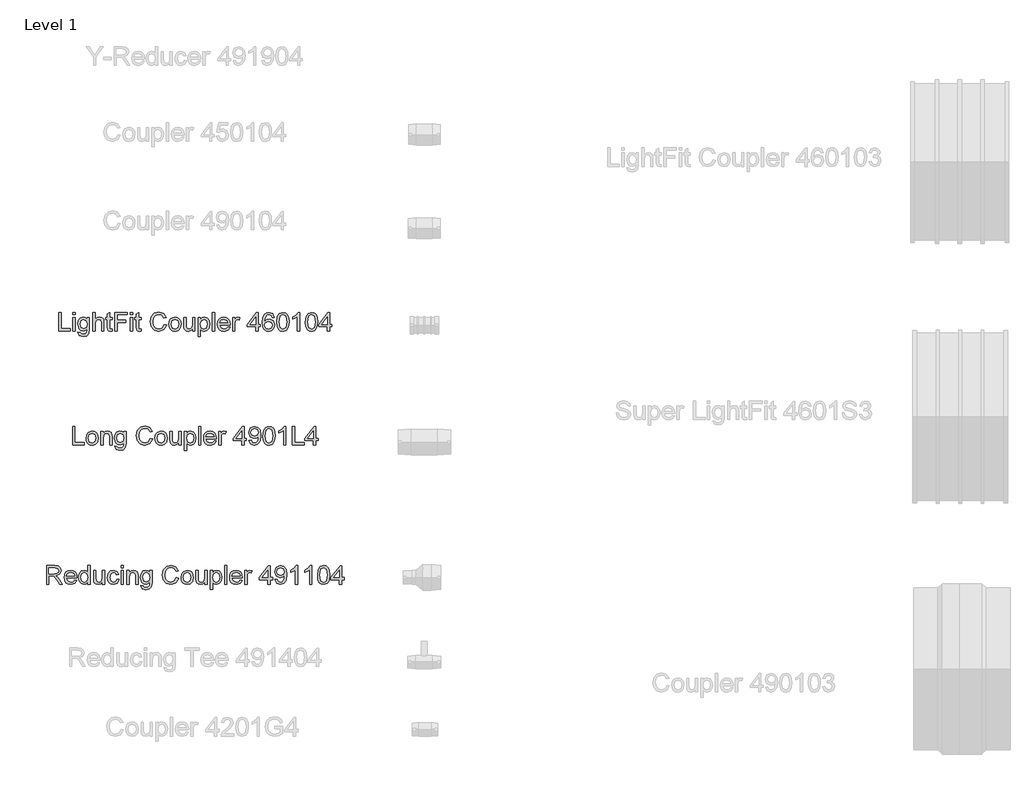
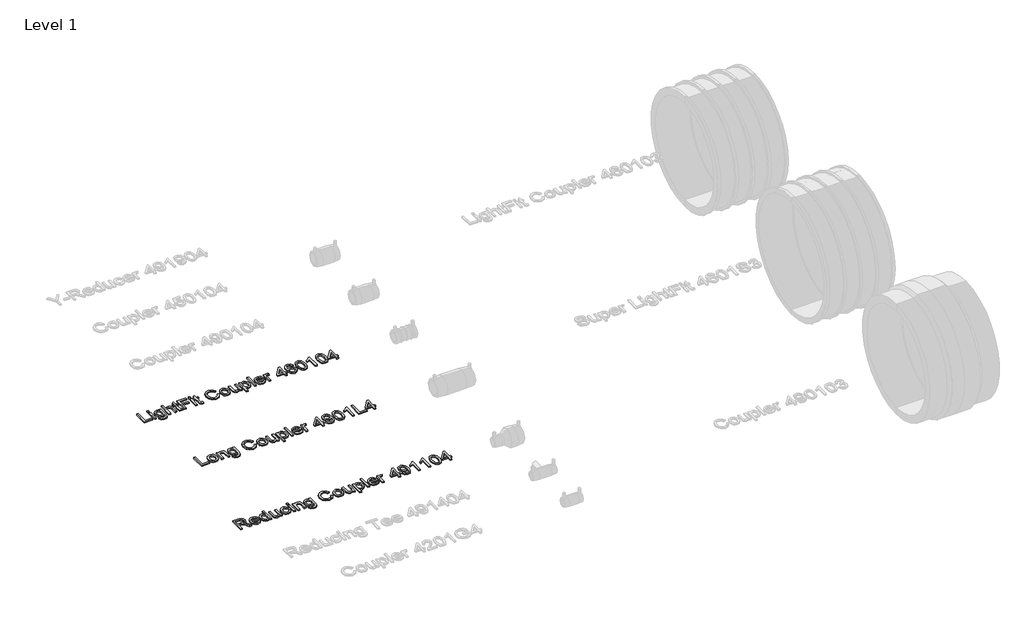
# One storey, part 2 of 41: 3 proxies.
"""IFC4 building model written with IfcOpenShell, lengths in millimetres."""

from ifc_helpers import new_model, si_unit, origin, origin_with_axes, place, context, project, spatial, polyline, outline, extrude, element, save

model = new_model("IFC4")

# Units and contexts
model_context = context("Model", 3, world=origin())
ifc_project = project(units=[si_unit("LENGTHUNIT", "METRE", prefix="MILLI")], contexts=[model_context])

# Site, building, storey
site = spatial("IfcSite", under=ifc_project)
building = spatial("IfcBuilding", under=site)
storey = spatial("IfcBuildingStorey", under=building, Name="Level 1", Elevation=0.0)

# Proxies
placement = place(None, origin())
element("IfcBuildingElementProxy", 1, Name="100 mm Arial", ObjectType="100 mm Arial", at=placement, inside=storey, context=model_context, shape_type="SweptSolid", body=[
    extrude(outline(polyline([(811.427917, 3874.3643675), (811.427917, 3933.4412905), (818.8125324, 3933.4412905), (818.8125324, 3881.7489828), (848.3509939, 3881.7489828), (848.3509939, 3874.3643675), (811.427917, 3874.3643675)])), origin_with_axes(), (0.0, 0.0, 1.0), 5.0),
    extrude(outline(polyline([(855.7356093, 3926.0566752), (855.7356093, 3933.4412905), (863.1202247, 3933.4412905), (863.1202247, 3926.0566752), (855.7356093, 3926.0566752)])), origin_with_axes(), (0.0, 0.0, 1.0), 5.0),
    extrude(outline(polyline([(855.7356093, 3874.3643675), (855.7356093, 3917.7489828), (863.1202247, 3917.7489828), (863.1202247, 3874.3643675), (855.7356093, 3874.3643675)])), origin_with_axes(), (0.0, 0.0, 1.0), 5.0),
    extrude(outline(polyline([(872.3509939, 3870.6720598), (879.7356093, 3869.7489828), (882.1298401, 3865.8547521), (889.2981093, 3864.2105213), (896.8558016, 3866.0710982), (900.4615709, 3871.2922521), (900.9663786, 3879.902829), (889.427917, 3874.3643675), (881.8143353, 3875.9761463), (876.1370516, 3880.8114828), (871.427917, 3896.2730213), (873.5408978, 3907.7177328), (879.6562824, 3915.8162905), (889.0673401, 3918.6720598), (895.6550805, 3917.0566752), (900.9663786, 3912.2105213), (900.9663786, 3917.7489828), (908.3509939, 3917.7489828), (908.3509939, 3880.2922521), (906.3317632, 3865.9485021), (899.9351286, 3859.277829), (889.1538786, 3856.8259059), (876.8726286, 3860.2802328), (872.3509939, 3870.6720598)]), holes=[polyline([(878.8125324, 3896.777829), (881.9639747, 3885.3475405), (889.8750324, 3881.7489828), (897.771667, 3885.3259059), (900.9663786, 3896.5614828), (897.677917, 3907.5735021), (889.7596478, 3911.2874444), (882.0072439, 3907.6311944), (878.8125324, 3896.777829)])]), origin_with_axes(), (0.0, 0.0, 1.0), 5.0),
    extrude(outline(polyline([(919.427917, 3874.3643675), (919.427917, 3933.4412905), (926.8125324, 3933.4412905), (926.8125324, 3911.7201367), (932.5709459, 3916.934079), (939.6634939, 3918.6720598), (947.9567632, 3916.7754252), (952.990417, 3911.5326367), (954.5048401, 3901.8259059), (954.5048401, 3874.3643675), (947.1202247, 3874.3643675), (947.1202247, 3901.0614828), (944.7692632, 3908.8499444), (938.1058016, 3911.2874444), (932.0553209, 3909.6432136), (928.0168593, 3905.1864828), (926.8125324, 3897.4124444), (926.8125324, 3874.3643675), (919.427917, 3874.3643675)])), origin_with_axes(), (0.0, 0.0, 1.0), 5.0),
    extrude(outline(polyline([(980.3509939, 3880.5230213), (981.2740709, 3874.1480213), (975.7500324, 3873.4412905), (969.5625324, 3874.6672521), (966.4759939, 3877.8835982), (965.5817632, 3886.2634059), (965.5817632, 3910.3643675), (960.0433016, 3910.3643675), (960.0433016, 3917.7489828), (965.5817632, 3917.7489828), (965.5817632, 3928.2922521), (972.9663786, 3932.6335982), (972.9663786, 3917.7489828), (980.3509939, 3917.7489828), (980.3509939, 3910.3643675), (972.9663786, 3910.3643675), (972.9663786, 3886.4797521), (973.3558016, 3882.6720598), (974.6178209, 3881.3235021), (977.1346478, 3880.8259059), (980.3509939, 3880.5230213)])), origin_with_axes(), (0.0, 0.0, 1.0), 5.0),
    extrude(outline(polyline([(988.6586863, 3874.3643675), (988.6586863, 3933.4412905), (1028.3509939, 3933.4412905), (1028.3509939, 3926.0566752), (996.0433016, 3926.0566752), (996.0433016, 3908.5182136), (1023.7356093, 3908.5182136), (1023.7356093, 3901.1335982), (996.0433016, 3901.1335982), (996.0433016, 3874.3643675), (988.6586863, 3874.3643675)])), origin_with_axes(), (0.0, 0.0, 1.0), 5.0),
    extrude(outline(polyline([(1037.5817632, 3874.3643675), (1037.5817632, 3917.7489828), (1044.9663786, 3917.7489828), (1044.9663786, 3874.3643675), (1037.5817632, 3874.3643675)])), origin_with_axes(), (0.0, 0.0, 1.0), 5.0),
    extrude(outline(polyline([(1037.5817632, 3926.0566752), (1037.5817632, 3933.4412905), (1044.9663786, 3933.4412905), (1044.9663786, 3926.0566752), (1037.5817632, 3926.0566752)])), origin_with_axes(), (0.0, 0.0, 1.0), 5.0),
    extrude(outline(polyline([(1071.7356093, 3880.5230213), (1072.6586863, 3874.1480213), (1067.1346478, 3873.4412905), (1060.9471478, 3874.6672521), (1057.8606093, 3877.8835982), (1056.9663786, 3886.2634059), (1056.9663786, 3910.3643675), (1051.427917, 3910.3643675), (1051.427917, 3917.7489828), (1056.9663786, 3917.7489828), (1056.9663786, 3928.2922521), (1064.3509939, 3932.6335982), (1064.3509939, 3917.7489828), (1071.7356093, 3917.7489828), (1071.7356093, 3910.3643675), (1064.3509939, 3910.3643675), (1064.3509939, 3886.4797521), (1064.740417, 3882.6720598), (1066.0024363, 3881.3235021), (1068.5192632, 3880.8259059), (1071.7356093, 3880.5230213)])), origin_with_axes(), (0.0, 0.0, 1.0), 5.0),
    extrude(outline(polyline([(1144.6586863, 3895.3643675), (1152.0433016, 3893.4605213), (1143.2884939, 3878.5686944), (1127.8269555, 3873.4412905), (1112.459167, 3877.3210982), (1103.4447439, 3888.5566752), (1100.3509939, 3904.3499444), (1103.8485901, 3920.402829), (1113.7933016, 3930.809079), (1127.9856093, 3934.3643675), (1142.7764747, 3929.7634059), (1151.1202247, 3916.8114828), (1143.7356093, 3915.0518675), (1137.677917, 3924.1311944), (1127.6971478, 3926.9797521), (1116.1442632, 3923.8210982), (1109.6178209, 3915.340329), (1107.7356093, 3904.3643675), (1109.9639747, 3891.6432136), (1116.9014747, 3883.5158098), (1127.0913786, 3880.8259059), (1138.3918593, 3884.4893675), (1144.6586863, 3895.3643675)])), origin_with_axes(), (0.0, 0.0, 1.0), 5.0),
    extrude(outline(polyline([(1159.427917, 3896.0566752), (1161.0252728, 3906.5170117), (1165.8173401, 3913.8691752), (1178.8269555, 3918.6720598), (1186.584768, 3917.2099203), (1192.7812824, 3912.8235021), (1196.8431814, 3905.8589588), (1198.1971478, 3896.6624444), (1195.802917, 3883.5230213), (1188.8293593, 3876.0879252), (1178.8269555, 3873.4412905), (1170.975393, 3874.8980213), (1164.7860901, 3879.2682136), (1160.7674603, 3886.3787905), (1159.427917, 3896.0566752)]), holes=[polyline([(1166.8125324, 3896.0710982), (1170.2308016, 3884.6263867), (1178.8269555, 3880.8259059), (1187.3942632, 3884.6480213), (1190.8125324, 3896.3018675), (1187.3726286, 3907.4869636), (1178.8269555, 3911.2874444), (1170.2308016, 3907.5013867), (1166.8125324, 3896.0710982)])]), origin_with_axes(), (0.0, 0.0, 1.0), 5.0),
    extrude(outline(polyline([(1234.1971478, 3874.3643675), (1234.1971478, 3881.8210982), (1228.4134939, 3875.5362425), (1220.8702247, 3873.4412905), (1213.9255132, 3874.9124444), (1209.1370516, 3878.6047521), (1206.9375324, 3884.0422521), (1206.5048401, 3890.9076367), (1206.5048401, 3917.7489828), (1213.8894555, 3917.7489828), (1213.8894555, 3894.3835982), (1214.3365709, 3886.8547521), (1217.2572439, 3882.434079), (1222.7596478, 3880.8259059), (1228.9255132, 3882.4701367), (1233.0000324, 3886.9485021), (1234.1971478, 3895.1768675), (1234.1971478, 3917.7489828), (1241.5817632, 3917.7489828), (1241.5817632, 3874.3643675), (1234.1971478, 3874.3643675)])), origin_with_axes(), (0.0, 0.0, 1.0), 5.0),
    extrude(outline(polyline([(1251.7356093, 3857.7489828), (1251.7356093, 3917.7489828), (1259.1202247, 3917.7489828), (1259.1202247, 3910.5085982), (1264.2259939, 3916.6311944), (1271.1202247, 3918.6720598), (1280.4808016, 3915.8162905), (1286.5961863, 3907.7682136), (1288.6586863, 3896.3884059), (1286.3293593, 3884.4244636), (1279.5649363, 3876.2754252), (1270.2259939, 3873.4412905), (1263.8005132, 3875.3379252), (1259.1202247, 3880.1335982), (1259.1202247, 3857.7489828), (1251.7356093, 3857.7489828)]), holes=[polyline([(1259.1202247, 3895.7105213), (1262.3149363, 3884.4605213), (1270.0673401, 3880.8259059), (1277.9783978, 3884.590329), (1281.2740709, 3896.2585982), (1278.0577247, 3907.5374444), (1270.3702247, 3911.2874444), (1262.5312824, 3907.2994636), (1259.1202247, 3895.7105213)])]), origin_with_axes(), (0.0, 0.0, 1.0), 5.0),
    extrude(outline(polyline([(1296.9663786, 3874.3643675), (1296.9663786, 3933.4412905), (1304.3509939, 3933.4412905), (1304.3509939, 3874.3643675), (1296.9663786, 3874.3643675)])), origin_with_axes(), (0.0, 0.0, 1.0), 5.0),
    extrude(outline(polyline([(1345.802917, 3887.2874444), (1353.0433016, 3886.3643675), (1346.271667, 3876.8307136), (1333.6586863, 3873.4412905), (1324.9940228, 3874.90343), (1318.3269555, 3879.2898482), (1314.0757536, 3886.3156896), (1312.6586863, 3895.6960982), (1314.0901766, 3905.3920117), (1318.3846478, 3912.6432136), (1324.9615709, 3917.1648482), (1333.240417, 3918.6720598), (1341.2614507, 3917.168454), (1347.6707055, 3912.6576367), (1351.8732295, 3905.4208578), (1353.2740709, 3895.7393675), (1353.2308016, 3893.7489828), (1320.0433016, 3893.7489828), (1324.2908978, 3884.1576367), (1333.802917, 3880.8259059), (1341.0433016, 3882.3691752), (1345.802917, 3887.2874444)]), holes=[polyline([(1320.0433016, 3901.1335982), (1345.8894555, 3901.1335982), (1342.9327247, 3907.8259059), (1333.2115709, 3911.2874444), (1324.1178209, 3908.5254252), (1320.0433016, 3901.1335982)])]), origin_with_axes(), (0.0, 0.0, 1.0), 5.0),
    extrude(outline(polyline([(1360.6586863, 3874.3643675), (1360.6586863, 3917.7489828), (1367.1202247, 3917.7489828), (1367.1202247, 3911.3307136), (1371.7067632, 3917.2441752), (1376.3221478, 3918.6720598), (1383.7356093, 3916.3932136), (1381.2692632, 3909.7730213), (1376.0769555, 3911.2874444), (1371.9014747, 3909.8307136), (1369.240417, 3905.7922521), (1368.0433016, 3897.1672521), (1368.0433016, 3874.3643675), (1360.6586863, 3874.3643675)])), origin_with_axes(), (0.0, 0.0, 1.0), 5.0),
    extrude(outline(polyline([(1433.5817632, 3874.3643675), (1433.5817632, 3888.2105213), (1406.8125324, 3888.2105213), (1406.8125324, 3895.5951367), (1435.427917, 3932.5182136), (1440.9663786, 3932.5182136), (1440.9663786, 3895.5951367), (1448.3509939, 3895.5951367), (1448.3509939, 3888.2105213), (1440.9663786, 3888.2105213), (1440.9663786, 3874.3643675), (1433.5817632, 3874.3643675)]), holes=[polyline([(1433.5817632, 3895.5951367), (1433.5817632, 3918.4124444), (1415.8990709, 3895.5951367), (1433.5817632, 3895.5951367)])]), origin_with_axes(), (0.0, 0.0, 1.0), 5.0),
    extrude(outline(polyline([(1492.6586863, 3917.7489828), (1485.2740709, 3916.8259059), (1482.4759939, 3922.9845598), (1475.0769555, 3926.0566752), (1468.4134939, 3924.2682136), (1463.3726286, 3917.5542713), (1461.2740709, 3904.3932136), (1467.7860901, 3910.2850405), (1475.8558016, 3912.2105213), (1488.4038786, 3906.9460982), (1493.5817632, 3893.3451367), (1491.1442632, 3883.1552328), (1484.4375324, 3875.9436944), (1474.7596478, 3873.4412905), (1466.381643, 3875.0999444), (1459.709167, 3880.0759059), (1455.3443834, 3888.8595598), (1453.8894555, 3901.9412905), (1455.5048401, 3916.6492232), (1460.3509939, 3926.7057136), (1466.9675805, 3931.7573963), (1475.5384939, 3933.4412905), (1487.2067632, 3929.2730213), (1492.6586863, 3917.7489828)]), holes=[polyline([(1461.2740709, 3893.4605213), (1462.9832055, 3887.0638867), (1467.5264747, 3882.4196559), (1474.1827247, 3880.8259059), (1482.8870516, 3884.1287905), (1486.1971478, 3893.0999444), (1482.9303209, 3901.6888867), (1473.8798401, 3904.8259059), (1464.9447439, 3901.6888867), (1461.2740709, 3893.4605213)])]), origin_with_axes(), (0.0, 0.0, 1.0), 5.0),
    extrude(outline(polyline([(1500.0433016, 3903.4268675), (1502.2139747, 3920.4244636), (1508.6610901, 3930.2249444), (1519.427917, 3933.4412905), (1528.052917, 3931.5374444), (1534.0096478, 3926.0494636), (1537.4711863, 3917.309079), (1538.8125324, 3903.4268675), (1536.6634939, 3886.5013867), (1530.2380132, 3876.6792713), (1519.427917, 3873.4412905), (1511.7548401, 3874.8475405), (1505.927917, 3879.0662905), (1501.5144555, 3889.0578771), (1500.0433016, 3903.4268675)]), holes=[polyline([(1507.427917, 3903.4412905), (1510.8894555, 3885.1023482), (1519.427917, 3880.8259059), (1527.9663786, 3885.1167713), (1531.427917, 3903.4412905), (1528.0817632, 3921.5710982), (1519.3413786, 3926.0566752), (1511.0048401, 3922.1047521), (1507.427917, 3903.4412905)])]), origin_with_axes(), (0.0, 0.0, 1.0), 5.0),
    extrude(outline(polyline([(1572.9663786, 3874.3643675), (1565.5817632, 3874.3643675), (1565.5817632, 3920.402829), (1558.5865709, 3915.4196559), (1550.8125324, 3911.6912905), (1550.8125324, 3918.6720598), (1561.6370516, 3925.5807136), (1568.2067632, 3933.4412905), (1572.9663786, 3933.4412905), (1572.9663786, 3874.3643675)])), origin_with_axes(), (0.0, 0.0, 1.0), 5.0),
    extrude(outline(polyline([(1590.5048401, 3903.4268675), (1592.6755132, 3920.4244636), (1599.1226286, 3930.2249444), (1609.8894555, 3933.4412905), (1618.5144555, 3931.5374444), (1624.4711863, 3926.0494636), (1627.9327247, 3917.309079), (1629.2740709, 3903.4268675), (1627.1250324, 3886.5013867), (1620.6995516, 3876.6792713), (1609.8894555, 3873.4412905), (1602.2163786, 3874.8475405), (1596.3894555, 3879.0662905), (1591.9759939, 3889.0578771), (1590.5048401, 3903.4268675)]), holes=[polyline([(1597.8894555, 3903.4412905), (1601.3509939, 3885.1023482), (1609.8894555, 3880.8259059), (1618.427917, 3885.1167713), (1621.8894555, 3903.4412905), (1618.5433016, 3921.5710982), (1609.802917, 3926.0566752), (1601.4663786, 3922.1047521), (1597.8894555, 3903.4412905)])]), origin_with_axes(), (0.0, 0.0, 1.0), 5.0),
    extrude(outline(polyline([(1659.7356093, 3874.3643675), (1659.7356093, 3888.2105213), (1632.9663786, 3888.2105213), (1632.9663786, 3895.5951367), (1661.5817632, 3932.5182136), (1667.1202247, 3932.5182136), (1667.1202247, 3895.5951367), (1674.5048401, 3895.5951367), (1674.5048401, 3888.2105213), (1667.1202247, 3888.2105213), (1667.1202247, 3874.3643675), (1659.7356093, 3874.3643675)]), holes=[polyline([(1659.7356093, 3895.5951367), (1659.7356093, 3918.4124444), (1642.052917, 3895.5951367), (1659.7356093, 3895.5951367)])]), origin_with_axes(), (0.0, 0.0, 1.0), 5.0),
])
element("IfcBuildingElementProxy", 2, Name="100 mm Arial", ObjectType="100 mm Arial", at=placement, inside=storey, context=model_context, shape_type="SweptSolid", body=[
    extrude(outline(polyline([(855.2740709, 3514.3643675), (855.2740709, 3573.4412905), (862.6586863, 3573.4412905), (862.6586863, 3521.7489828), (892.1971478, 3521.7489828), (892.1971478, 3514.3643675), (855.2740709, 3514.3643675)])), origin_with_axes(), (0.0, 0.0, 1.0), 5.0),
    extrude(outline(polyline([(897.7356093, 3536.0566752), (899.3329651, 3546.5170117), (904.1250324, 3553.8691752), (917.1346478, 3558.6720598), (924.8924603, 3557.2099203), (931.0889747, 3552.8235021), (935.1508738, 3545.8589588), (936.5048401, 3536.6624444), (934.1106093, 3523.5230213), (927.1370516, 3516.0879252), (917.1346478, 3513.4412905), (909.2830853, 3514.8980213), (903.0937824, 3519.2682136), (899.0751526, 3526.3787905), (897.7356093, 3536.0566752)]), holes=[polyline([(905.1202247, 3536.0710982), (908.5384939, 3524.6263867), (917.1346478, 3520.8259059), (925.7019555, 3524.6480213), (929.1202247, 3536.3018675), (925.6803209, 3547.4869636), (917.1346478, 3551.2874444), (908.5384939, 3547.5013867), (905.1202247, 3536.0710982)])]), origin_with_axes(), (0.0, 0.0, 1.0), 5.0),
    extrude(outline(polyline([(944.8125324, 3514.3643675), (944.8125324, 3557.7489828), (952.1971478, 3557.7489828), (952.1971478, 3551.6912905), (957.8437824, 3556.9268675), (965.552917, 3558.6720598), (972.5264747, 3557.2658098), (977.2860901, 3553.5735021), (979.5000324, 3548.1432136), (979.8894555, 3541.0037905), (979.8894555, 3514.3643675), (972.5048401, 3514.3643675), (972.5048401, 3540.0085982), (971.6538786, 3546.5422521), (968.646667, 3549.996579), (963.5769555, 3551.2874444), (955.5649363, 3548.3884059), (952.1971478, 3537.3835982), (952.1971478, 3514.3643675), (944.8125324, 3514.3643675)])), origin_with_axes(), (0.0, 0.0, 1.0), 5.0),
    extrude(outline(polyline([(988.1971478, 3510.6720598), (995.5817632, 3509.7489828), (997.9759939, 3505.8547521), (1005.1442632, 3504.2105213), (1012.7019555, 3506.0710982), (1016.3077247, 3511.2922521), (1016.8125324, 3519.902829), (1005.2740709, 3514.3643675), (997.6604891, 3515.9761463), (991.9832055, 3520.8114828), (987.2740709, 3536.2730213), (989.3870516, 3547.7177328), (995.5024363, 3555.8162905), (1004.9134939, 3558.6720598), (1011.5012343, 3557.0566752), (1016.8125324, 3552.2105213), (1016.8125324, 3557.7489828), (1024.1971478, 3557.7489828), (1024.1971478, 3520.2922521), (1022.177917, 3505.9485021), (1015.7812824, 3499.277829), (1005.0000324, 3496.8259059), (992.7187824, 3500.2802328), (988.1971478, 3510.6720598)]), holes=[polyline([(994.6586863, 3536.777829), (997.8101286, 3525.3475405), (1005.7211863, 3521.7489828), (1013.6178209, 3525.3259059), (1016.8125324, 3536.5614828), (1013.5240709, 3547.5735021), (1005.6058016, 3551.2874444), (997.8533978, 3547.6311944), (994.6586863, 3536.777829)])]), origin_with_axes(), (0.0, 0.0, 1.0), 5.0),
    extrude(outline(polyline([(1100.8125324, 3535.3643675), (1108.1971478, 3533.4605213), (1099.4423401, 3518.5686944), (1083.9808016, 3513.4412905), (1068.6130132, 3517.3210982), (1059.5985901, 3528.5566752), (1056.5048401, 3544.3499444), (1060.0024363, 3560.402829), (1069.9471478, 3570.809079), (1084.1394555, 3574.3643675), (1098.9303209, 3569.7634059), (1107.2740709, 3556.8114828), (1099.8894555, 3555.0518675), (1093.8317632, 3564.1311944), (1083.8509939, 3566.9797521), (1072.2981093, 3563.8210982), (1065.771667, 3555.340329), (1063.8894555, 3544.3643675), (1066.1178209, 3531.6432136), (1073.0553209, 3523.5158098), (1083.2452247, 3520.8259059), (1094.5457055, 3524.4893675), (1100.8125324, 3535.3643675)])), origin_with_axes(), (0.0, 0.0, 1.0), 5.0),
    extrude(outline(polyline([(1115.5817632, 3536.0566752), (1117.1791189, 3546.5170117), (1121.9711863, 3553.8691752), (1134.9808016, 3558.6720598), (1142.7386141, 3557.2099203), (1148.9351286, 3552.8235021), (1152.9970276, 3545.8589588), (1154.3509939, 3536.6624444), (1151.9567632, 3523.5230213), (1144.9832055, 3516.0879252), (1134.9808016, 3513.4412905), (1127.1292391, 3514.8980213), (1120.9399363, 3519.2682136), (1116.9213064, 3526.3787905), (1115.5817632, 3536.0566752)]), holes=[polyline([(1122.9663786, 3536.0710982), (1126.3846478, 3524.6263867), (1134.9808016, 3520.8259059), (1143.5481093, 3524.6480213), (1146.9663786, 3536.3018675), (1143.5264747, 3547.4869636), (1134.9808016, 3551.2874444), (1126.3846478, 3547.5013867), (1122.9663786, 3536.0710982)])]), origin_with_axes(), (0.0, 0.0, 1.0), 5.0),
    extrude(outline(polyline([(1190.3509939, 3514.3643675), (1190.3509939, 3521.8210982), (1184.5673401, 3515.5362425), (1177.0240709, 3513.4412905), (1170.0793593, 3514.9124444), (1165.2908978, 3518.6047521), (1163.0913786, 3524.0422521), (1162.6586863, 3530.9076367), (1162.6586863, 3557.7489828), (1170.0433016, 3557.7489828), (1170.0433016, 3534.3835982), (1170.490417, 3526.8547521), (1173.4110901, 3522.434079), (1178.9134939, 3520.8259059), (1185.0793593, 3522.4701367), (1189.1538786, 3526.9485021), (1190.3509939, 3535.1768675), (1190.3509939, 3557.7489828), (1197.7356093, 3557.7489828), (1197.7356093, 3514.3643675), (1190.3509939, 3514.3643675)])), origin_with_axes(), (0.0, 0.0, 1.0), 5.0),
    extrude(outline(polyline([(1207.8894555, 3497.7489828), (1207.8894555, 3557.7489828), (1215.2740709, 3557.7489828), (1215.2740709, 3550.5085982), (1220.3798401, 3556.6311944), (1227.2740709, 3558.6720598), (1236.6346478, 3555.8162905), (1242.7500324, 3547.7682136), (1244.8125324, 3536.3884059), (1242.4832055, 3524.4244636), (1235.7187824, 3516.2754252), (1226.3798401, 3513.4412905), (1219.9543593, 3515.3379252), (1215.2740709, 3520.1335982), (1215.2740709, 3497.7489828), (1207.8894555, 3497.7489828)]), holes=[polyline([(1215.2740709, 3535.7105213), (1218.4687824, 3524.4605213), (1226.2211863, 3520.8259059), (1234.1322439, 3524.590329), (1237.427917, 3536.2585982), (1234.2115709, 3547.5374444), (1226.5240709, 3551.2874444), (1218.6851286, 3547.2994636), (1215.2740709, 3535.7105213)])]), origin_with_axes(), (0.0, 0.0, 1.0), 5.0),
    extrude(outline(polyline([(1253.1202247, 3514.3643675), (1253.1202247, 3573.4412905), (1260.5048401, 3573.4412905), (1260.5048401, 3514.3643675), (1253.1202247, 3514.3643675)])), origin_with_axes(), (0.0, 0.0, 1.0), 5.0),
    extrude(outline(polyline([(1301.9567632, 3527.2874444), (1309.1971478, 3526.3643675), (1302.4255132, 3516.8307136), (1289.8125324, 3513.4412905), (1281.1478689, 3514.90343), (1274.4808016, 3519.2898482), (1270.2295997, 3526.3156896), (1268.8125324, 3535.6960982), (1270.2440228, 3545.3920117), (1274.5384939, 3552.6432136), (1281.115417, 3557.1648482), (1289.3942632, 3558.6720598), (1297.4152968, 3557.168454), (1303.8245516, 3552.6576367), (1308.0270757, 3545.4208578), (1309.427917, 3535.7393675), (1309.3846478, 3533.7489828), (1276.1971478, 3533.7489828), (1280.4447439, 3524.1576367), (1289.9567632, 3520.8259059), (1297.1971478, 3522.3691752), (1301.9567632, 3527.2874444)]), holes=[polyline([(1276.1971478, 3541.1335982), (1302.0433016, 3541.1335982), (1299.0865709, 3547.8259059), (1289.365417, 3551.2874444), (1280.271667, 3548.5254252), (1276.1971478, 3541.1335982)])]), origin_with_axes(), (0.0, 0.0, 1.0), 5.0),
    extrude(outline(polyline([(1316.8125324, 3514.3643675), (1316.8125324, 3557.7489828), (1323.2740709, 3557.7489828), (1323.2740709, 3551.3307136), (1327.8606093, 3557.2441752), (1332.4759939, 3558.6720598), (1339.8894555, 3556.3932136), (1337.4231093, 3549.7730213), (1332.2308016, 3551.2874444), (1328.0553209, 3549.8307136), (1325.3942632, 3545.7922521), (1324.1971478, 3537.1672521), (1324.1971478, 3514.3643675), (1316.8125324, 3514.3643675)])), origin_with_axes(), (0.0, 0.0, 1.0), 5.0),
    extrude(outline(polyline([(1389.7356093, 3514.3643675), (1389.7356093, 3528.2105213), (1362.9663786, 3528.2105213), (1362.9663786, 3535.5951367), (1391.5817632, 3572.5182136), (1397.1202247, 3572.5182136), (1397.1202247, 3535.5951367), (1404.5048401, 3535.5951367), (1404.5048401, 3528.2105213), (1397.1202247, 3528.2105213), (1397.1202247, 3514.3643675), (1389.7356093, 3514.3643675)]), holes=[polyline([(1389.7356093, 3535.5951367), (1389.7356093, 3558.4124444), (1372.052917, 3535.5951367), (1389.7356093, 3535.5951367)])]), origin_with_axes(), (0.0, 0.0, 1.0), 5.0),
    extrude(outline(polyline([(1411.8894555, 3529.1335982), (1419.2740709, 3530.0566752), (1422.5913786, 3523.0110021), (1428.8798401, 3520.8259059), (1434.8582055, 3522.2321559), (1438.9110901, 3525.9893675), (1441.3269555, 3532.4076367), (1442.3942632, 3540.9749444), (1436.4447439, 3536.8210982), (1428.3461863, 3534.6720598), (1416.0072439, 3539.9220598), (1410.9663786, 3553.7537905), (1416.2524363, 3568.0326367), (1429.5000324, 3573.4412905), (1440.021667, 3570.3547521), (1447.2620516, 3561.5566752), (1449.7356093, 3545.027829), (1447.2692632, 3527.0927328), (1439.9351286, 3516.9316752), (1428.5336863, 3513.4412905), (1417.1827247, 3517.559079), (1411.8894555, 3529.1335982)]), holes=[polyline([(1442.3509939, 3553.9268675), (1439.1634939, 3562.7826367), (1430.6971478, 3566.0566752), (1421.8125324, 3562.5302328), (1418.3509939, 3553.3932136), (1421.6250324, 3545.2081175), (1430.4952247, 3542.0566752), (1439.0120516, 3545.2081175), (1442.3509939, 3553.9268675)])]), origin_with_axes(), (0.0, 0.0, 1.0), 5.0),
    extrude(outline(polyline([(1456.1971478, 3543.4268675), (1458.3678209, 3560.4244636), (1464.8149363, 3570.2249444), (1475.5817632, 3573.4412905), (1484.2067632, 3571.5374444), (1490.1634939, 3566.0494636), (1493.6250324, 3557.309079), (1494.9663786, 3543.4268675), (1492.8173401, 3526.5013867), (1486.3918593, 3516.6792713), (1475.5817632, 3513.4412905), (1467.9086863, 3514.8475405), (1462.0817632, 3519.0662905), (1457.6683016, 3529.0578771), (1456.1971478, 3543.4268675)]), holes=[polyline([(1463.5817632, 3543.4412905), (1467.0433016, 3525.1023482), (1475.5817632, 3520.8259059), (1484.1202247, 3525.1167713), (1487.5817632, 3543.4412905), (1484.2356093, 3561.5710982), (1475.4952247, 3566.0566752), (1467.1586863, 3562.1047521), (1463.5817632, 3543.4412905)])]), origin_with_axes(), (0.0, 0.0, 1.0), 5.0),
    extrude(outline(polyline([(1529.1202247, 3514.3643675), (1521.7356093, 3514.3643675), (1521.7356093, 3560.402829), (1514.740417, 3555.4196559), (1506.9663786, 3551.6912905), (1506.9663786, 3558.6720598), (1517.7908978, 3565.5807136), (1524.3606093, 3573.4412905), (1529.1202247, 3573.4412905), (1529.1202247, 3514.3643675)])), origin_with_axes(), (0.0, 0.0, 1.0), 5.0),
    extrude(outline(polyline([(1549.427917, 3514.3643675), (1549.427917, 3573.4412905), (1556.8125324, 3573.4412905), (1556.8125324, 3521.7489828), (1586.3509939, 3521.7489828), (1586.3509939, 3514.3643675), (1549.427917, 3514.3643675)])), origin_with_axes(), (0.0, 0.0, 1.0), 5.0),
    extrude(outline(polyline([(1615.8894555, 3514.3643675), (1615.8894555, 3528.2105213), (1589.1202247, 3528.2105213), (1589.1202247, 3535.5951367), (1617.7356093, 3572.5182136), (1623.2740709, 3572.5182136), (1623.2740709, 3535.5951367), (1630.6586863, 3535.5951367), (1630.6586863, 3528.2105213), (1623.2740709, 3528.2105213), (1623.2740709, 3514.3643675), (1615.8894555, 3514.3643675)]), holes=[polyline([(1615.8894555, 3535.5951367), (1615.8894555, 3558.4124444), (1598.2067632, 3535.5951367), (1615.8894555, 3535.5951367)])]), origin_with_axes(), (0.0, 0.0, 1.0), 5.0),
])
element("IfcBuildingElementProxy", 3, Name="100 mm Arial", ObjectType="100 mm Arial", at=placement, inside=storey, context=model_context, shape_type="SweptSolid", body=[
    extrude(outline(polyline([(773.1202247, 3074.3643675), (773.1202247, 3133.4412905), (798.5769555, 3133.4412905), (810.396667, 3131.8475405), (816.8582055, 3126.2081175), (819.2740709, 3117.2730213), (815.271667, 3106.6287905), (802.9038786, 3101.1335982), (807.1009939, 3097.9749444), (813.0865709, 3090.3739828), (822.9375324, 3074.3643675), (814.3558016, 3074.3643675), (806.6683016, 3086.6095598), (801.115417, 3094.715329), (797.2139747, 3098.5446559), (793.7019555, 3099.9509059), (789.4183016, 3100.2105213), (780.5048401, 3100.2105213), (780.5048401, 3074.3643675), (773.1202247, 3074.3643675)]), holes=[polyline([(780.5048401, 3107.5951367), (797.0336863, 3107.5951367), (805.4639747, 3108.6408098), (810.2524363, 3111.9869636), (811.8894555, 3116.9989828), (808.7668593, 3123.5037905), (798.8942632, 3126.0566752), (780.5048401, 3126.0566752), (780.5048401, 3107.5951367)])]), origin_with_axes(), (0.0, 0.0, 1.0), 5.0),
    extrude(outline(polyline([(861.6490709, 3087.2874444), (868.8894555, 3086.3643675), (862.1178209, 3076.8307136), (849.5048401, 3073.4412905), (840.8401766, 3074.90343), (834.1731093, 3079.2898482), (829.9219074, 3086.3156896), (828.5048401, 3095.6960982), (829.9363305, 3105.3920117), (834.2308016, 3112.6432136), (840.8077247, 3117.1648482), (849.0865709, 3118.6720598), (857.1076045, 3117.168454), (863.5168593, 3112.6576367), (867.7193834, 3105.4208578), (869.1202247, 3095.7393675), (869.0769555, 3093.7489828), (835.8894555, 3093.7489828), (840.1370516, 3084.1576367), (849.6490709, 3080.8259059), (856.8894555, 3082.3691752), (861.6490709, 3087.2874444)]), holes=[polyline([(835.8894555, 3101.1335982), (861.7356093, 3101.1335982), (858.7788786, 3107.8259059), (849.0577247, 3111.2874444), (839.9639747, 3108.5254252), (835.8894555, 3101.1335982)])]), origin_with_axes(), (0.0, 0.0, 1.0), 5.0),
    extrude(outline(polyline([(903.2740709, 3074.3643675), (903.2740709, 3081.3307136), (898.3882536, 3075.4136463), (891.6346478, 3073.4412905), (882.490417, 3076.2970598), (876.0288786, 3084.2658098), (873.7356093, 3096.0134059), (875.8485901, 3107.7682136), (882.1803209, 3115.8595598), (891.6058016, 3118.6720598), (898.4134939, 3116.6600405), (903.2740709, 3111.4316752), (903.2740709, 3133.4412905), (910.6586863, 3133.4412905), (910.6586863, 3074.3643675), (903.2740709, 3074.3643675)]), holes=[polyline([(881.1202247, 3096.0422521), (884.4519555, 3084.6119636), (892.3125324, 3080.8259059), (900.0793593, 3084.4388867), (903.2740709, 3095.4797521), (900.021667, 3107.465329), (892.0096478, 3111.2874444), (884.2356093, 3107.6167713), (881.1202247, 3096.0422521)])]), origin_with_axes(), (0.0, 0.0, 1.0), 5.0),
    extrude(outline(polyline([(949.427917, 3074.3643675), (949.427917, 3081.8210982), (943.6442632, 3075.5362425), (936.1009939, 3073.4412905), (929.1562824, 3074.9124444), (924.3678209, 3078.6047521), (922.1683016, 3084.0422521), (921.7356093, 3090.9076367), (921.7356093, 3117.7489828), (929.1202247, 3117.7489828), (929.1202247, 3094.3835982), (929.5673401, 3086.8547521), (932.4880132, 3082.434079), (937.990417, 3080.8259059), (944.1562824, 3082.4701367), (948.2308016, 3086.9485021), (949.427917, 3095.1768675), (949.427917, 3117.7489828), (956.8125324, 3117.7489828), (956.8125324, 3074.3643675), (949.427917, 3074.3643675)])), origin_with_axes(), (0.0, 0.0, 1.0), 5.0),
    extrude(outline(polyline([(994.6586863, 3090.0566752), (1002.0433016, 3089.1335982), (996.115417, 3077.6023482), (984.4038786, 3073.4412905), (976.5487103, 3074.8926127), (970.4062824, 3079.246579), (966.4417391, 3086.3120838), (965.1202247, 3095.8980213), (967.3774363, 3108.1648482), (974.2572439, 3116.0470598), (984.302917, 3118.6720598), (995.5312824, 3115.0662905), (1001.1202247, 3104.8259059), (993.7356093, 3103.902829), (990.3101286, 3109.434079), (984.3606093, 3111.2874444), (975.8005132, 3107.6384059), (972.5048401, 3096.0999444), (975.7283978, 3084.4533098), (984.1586863, 3080.8259059), (991.1178209, 3083.090329), (994.6586863, 3090.0566752)])), origin_with_axes(), (0.0, 0.0, 1.0), 5.0),
    extrude(outline(polyline([(1008.5048401, 3126.0566752), (1008.5048401, 3133.4412905), (1015.8894555, 3133.4412905), (1015.8894555, 3126.0566752), (1008.5048401, 3126.0566752)])), origin_with_axes(), (0.0, 0.0, 1.0), 5.0),
    extrude(outline(polyline([(1008.5048401, 3074.3643675), (1008.5048401, 3117.7489828), (1015.8894555, 3117.7489828), (1015.8894555, 3074.3643675), (1008.5048401, 3074.3643675)])), origin_with_axes(), (0.0, 0.0, 1.0), 5.0),
    extrude(outline(polyline([(1026.9663786, 3074.3643675), (1026.9663786, 3117.7489828), (1034.3509939, 3117.7489828), (1034.3509939, 3111.6912905), (1039.9976286, 3116.9268675), (1047.7067632, 3118.6720598), (1054.6803209, 3117.2658098), (1059.4399363, 3113.5735021), (1061.6538786, 3108.1432136), (1062.0433016, 3101.0037905), (1062.0433016, 3074.3643675), (1054.6586863, 3074.3643675), (1054.6586863, 3100.0085982), (1053.8077247, 3106.5422521), (1050.8005132, 3109.996579), (1045.7308016, 3111.2874444), (1037.7187824, 3108.3884059), (1034.3509939, 3097.3835982), (1034.3509939, 3074.3643675), (1026.9663786, 3074.3643675)])), origin_with_axes(), (0.0, 0.0, 1.0), 5.0),
    extrude(outline(polyline([(1070.3509939, 3070.6720598), (1077.7356093, 3069.7489828), (1080.1298401, 3065.8547521), (1087.2981093, 3064.2105213), (1094.8558016, 3066.0710982), (1098.4615709, 3071.2922521), (1098.9663786, 3079.902829), (1087.427917, 3074.3643675), (1079.8143353, 3075.9761463), (1074.1370516, 3080.8114828), (1069.427917, 3096.2730213), (1071.5408978, 3107.7177328), (1077.6562824, 3115.8162905), (1087.0673401, 3118.6720598), (1093.6550805, 3117.0566752), (1098.9663786, 3112.2105213), (1098.9663786, 3117.7489828), (1106.3509939, 3117.7489828), (1106.3509939, 3080.2922521), (1104.3317632, 3065.9485021), (1097.9351286, 3059.277829), (1087.1538786, 3056.8259059), (1074.8726286, 3060.2802328), (1070.3509939, 3070.6720598)]), holes=[polyline([(1076.8125324, 3096.777829), (1079.9639747, 3085.3475405), (1087.8750324, 3081.7489828), (1095.771667, 3085.3259059), (1098.9663786, 3096.5614828), (1095.677917, 3107.5735021), (1087.7596478, 3111.2874444), (1080.0072439, 3107.6311944), (1076.8125324, 3096.777829)])]), origin_with_axes(), (0.0, 0.0, 1.0), 5.0),
    extrude(outline(polyline([(1182.9663786, 3095.3643675), (1190.3509939, 3093.4605213), (1181.5961863, 3078.5686944), (1166.1346478, 3073.4412905), (1150.7668593, 3077.3210982), (1141.7524363, 3088.5566752), (1138.6586863, 3104.3499444), (1142.1562824, 3120.402829), (1152.1009939, 3130.809079), (1166.2933016, 3134.3643675), (1181.084167, 3129.7634059), (1189.427917, 3116.8114828), (1182.0433016, 3115.0518675), (1175.9856093, 3124.1311944), (1166.0048401, 3126.9797521), (1154.4519555, 3123.8210982), (1147.9255132, 3115.340329), (1146.0433016, 3104.3643675), (1148.271667, 3091.6432136), (1155.209167, 3083.5158098), (1165.3990709, 3080.8259059), (1176.6995516, 3084.4893675), (1182.9663786, 3095.3643675)])), origin_with_axes(), (0.0, 0.0, 1.0), 5.0),
    extrude(outline(polyline([(1197.7356093, 3096.0566752), (1199.3329651, 3106.5170117), (1204.1250324, 3113.8691752), (1217.1346478, 3118.6720598), (1224.8924603, 3117.2099203), (1231.0889747, 3112.8235021), (1235.1508738, 3105.8589588), (1236.5048401, 3096.6624444), (1234.1106093, 3083.5230213), (1227.1370516, 3076.0879252), (1217.1346478, 3073.4412905), (1209.2830853, 3074.8980213), (1203.0937824, 3079.2682136), (1199.0751526, 3086.3787905), (1197.7356093, 3096.0566752)]), holes=[polyline([(1205.1202247, 3096.0710982), (1208.5384939, 3084.6263867), (1217.1346478, 3080.8259059), (1225.7019555, 3084.6480213), (1229.1202247, 3096.3018675), (1225.6803209, 3107.4869636), (1217.1346478, 3111.2874444), (1208.5384939, 3107.5013867), (1205.1202247, 3096.0710982)])]), origin_with_axes(), (0.0, 0.0, 1.0), 5.0),
    extrude(outline(polyline([(1272.5048401, 3074.3643675), (1272.5048401, 3081.8210982), (1266.7211863, 3075.5362425), (1259.177917, 3073.4412905), (1252.2332055, 3074.9124444), (1247.4447439, 3078.6047521), (1245.2452247, 3084.0422521), (1244.8125324, 3090.9076367), (1244.8125324, 3117.7489828), (1252.1971478, 3117.7489828), (1252.1971478, 3094.3835982), (1252.6442632, 3086.8547521), (1255.5649363, 3082.434079), (1261.0673401, 3080.8259059), (1267.2332055, 3082.4701367), (1271.3077247, 3086.9485021), (1272.5048401, 3095.1768675), (1272.5048401, 3117.7489828), (1279.8894555, 3117.7489828), (1279.8894555, 3074.3643675), (1272.5048401, 3074.3643675)])), origin_with_axes(), (0.0, 0.0, 1.0), 5.0),
    extrude(outline(polyline([(1290.0433016, 3057.7489828), (1290.0433016, 3117.7489828), (1297.427917, 3117.7489828), (1297.427917, 3110.5085982), (1302.5336863, 3116.6311944), (1309.427917, 3118.6720598), (1318.7884939, 3115.8162905), (1324.9038786, 3107.7682136), (1326.9663786, 3096.3884059), (1324.6370516, 3084.4244636), (1317.8726286, 3076.2754252), (1308.5336863, 3073.4412905), (1302.1082055, 3075.3379252), (1297.427917, 3080.1335982), (1297.427917, 3057.7489828), (1290.0433016, 3057.7489828)]), holes=[polyline([(1297.427917, 3095.7105213), (1300.6226286, 3084.4605213), (1308.3750324, 3080.8259059), (1316.2860901, 3084.590329), (1319.5817632, 3096.2585982), (1316.365417, 3107.5374444), (1308.677917, 3111.2874444), (1300.8389747, 3107.2994636), (1297.427917, 3095.7105213)])]), origin_with_axes(), (0.0, 0.0, 1.0), 5.0),
    extrude(outline(polyline([(1335.2740709, 3074.3643675), (1335.2740709, 3133.4412905), (1342.6586863, 3133.4412905), (1342.6586863, 3074.3643675), (1335.2740709, 3074.3643675)])), origin_with_axes(), (0.0, 0.0, 1.0), 5.0),
    extrude(outline(polyline([(1384.1106093, 3087.2874444), (1391.3509939, 3086.3643675), (1384.5793593, 3076.8307136), (1371.9663786, 3073.4412905), (1363.3017151, 3074.90343), (1356.6346478, 3079.2898482), (1352.3834459, 3086.3156896), (1350.9663786, 3095.6960982), (1352.3978689, 3105.3920117), (1356.6923401, 3112.6432136), (1363.2692632, 3117.1648482), (1371.5481093, 3118.6720598), (1379.569143, 3117.168454), (1385.9783978, 3112.6576367), (1390.1809218, 3105.4208578), (1391.5817632, 3095.7393675), (1391.5384939, 3093.7489828), (1358.3509939, 3093.7489828), (1362.5985901, 3084.1576367), (1372.1106093, 3080.8259059), (1379.3509939, 3082.3691752), (1384.1106093, 3087.2874444)]), holes=[polyline([(1358.3509939, 3101.1335982), (1384.1971478, 3101.1335982), (1381.240417, 3107.8259059), (1371.5192632, 3111.2874444), (1362.4255132, 3108.5254252), (1358.3509939, 3101.1335982)])]), origin_with_axes(), (0.0, 0.0, 1.0), 5.0),
    extrude(outline(polyline([(1398.9663786, 3074.3643675), (1398.9663786, 3117.7489828), (1405.427917, 3117.7489828), (1405.427917, 3111.3307136), (1410.0144555, 3117.2441752), (1414.6298401, 3118.6720598), (1422.0433016, 3116.3932136), (1419.5769555, 3109.7730213), (1414.3846478, 3111.2874444), (1410.209167, 3109.8307136), (1407.5481093, 3105.7922521), (1406.3509939, 3097.1672521), (1406.3509939, 3074.3643675), (1398.9663786, 3074.3643675)])), origin_with_axes(), (0.0, 0.0, 1.0), 5.0),
    extrude(outline(polyline([(1471.8894555, 3074.3643675), (1471.8894555, 3088.2105213), (1445.1202247, 3088.2105213), (1445.1202247, 3095.5951367), (1473.7356093, 3132.5182136), (1479.2740709, 3132.5182136), (1479.2740709, 3095.5951367), (1486.6586863, 3095.5951367), (1486.6586863, 3088.2105213), (1479.2740709, 3088.2105213), (1479.2740709, 3074.3643675), (1471.8894555, 3074.3643675)]), holes=[polyline([(1471.8894555, 3095.5951367), (1471.8894555, 3118.4124444), (1454.2067632, 3095.5951367), (1471.8894555, 3095.5951367)])]), origin_with_axes(), (0.0, 0.0, 1.0), 5.0),
    extrude(outline(polyline([(1494.0433016, 3089.1335982), (1501.427917, 3090.0566752), (1504.7452247, 3083.0110021), (1511.0336863, 3080.8259059), (1517.0120516, 3082.2321559), (1521.0649363, 3085.9893675), (1523.4808016, 3092.4076367), (1524.5481093, 3100.9749444), (1518.5985901, 3096.8210982), (1510.5000324, 3094.6720598), (1498.1610901, 3099.9220598), (1493.1202247, 3113.7537905), (1498.4062824, 3128.0326367), (1511.6538786, 3133.4412905), (1522.1755132, 3130.3547521), (1529.4158978, 3121.5566752), (1531.8894555, 3105.027829), (1529.4231093, 3087.0927328), (1522.0889747, 3076.9316752), (1510.6875324, 3073.4412905), (1499.3365709, 3077.559079), (1494.0433016, 3089.1335982)]), holes=[polyline([(1524.5048401, 3113.9268675), (1521.3173401, 3122.7826367), (1512.8509939, 3126.0566752), (1503.9663786, 3122.5302328), (1500.5048401, 3113.3932136), (1503.7788786, 3105.2081175), (1512.6490709, 3102.0566752), (1521.1658978, 3105.2081175), (1524.5048401, 3113.9268675)])]), origin_with_axes(), (0.0, 0.0, 1.0), 5.0),
    extrude(outline(polyline([(1566.0433016, 3074.3643675), (1558.6586863, 3074.3643675), (1558.6586863, 3120.402829), (1551.6634939, 3115.4196559), (1543.8894555, 3111.6912905), (1543.8894555, 3118.6720598), (1554.7139747, 3125.5807136), (1561.2836863, 3133.4412905), (1566.0433016, 3133.4412905), (1566.0433016, 3074.3643675)])), origin_with_axes(), (0.0, 0.0, 1.0), 5.0),
    extrude(outline(polyline([(1611.2740709, 3074.3643675), (1603.8894555, 3074.3643675), (1603.8894555, 3120.402829), (1596.8942632, 3115.4196559), (1589.1202247, 3111.6912905), (1589.1202247, 3118.6720598), (1599.9447439, 3125.5807136), (1606.5144555, 3133.4412905), (1611.2740709, 3133.4412905), (1611.2740709, 3074.3643675)])), origin_with_axes(), (0.0, 0.0, 1.0), 5.0),
    extrude(outline(polyline([(1628.8125324, 3103.4268675), (1630.9832055, 3120.4244636), (1637.4303209, 3130.2249444), (1648.1971478, 3133.4412905), (1656.8221478, 3131.5374444), (1662.7788786, 3126.0494636), (1666.240417, 3117.309079), (1667.5817632, 3103.4268675), (1665.4327247, 3086.5013867), (1659.0072439, 3076.6792713), (1648.1971478, 3073.4412905), (1640.5240709, 3074.8475405), (1634.6971478, 3079.0662905), (1630.2836863, 3089.0578771), (1628.8125324, 3103.4268675)]), holes=[polyline([(1636.1971478, 3103.4412905), (1639.6586863, 3085.1023482), (1648.1971478, 3080.8259059), (1656.7356093, 3085.1167713), (1660.1971478, 3103.4412905), (1656.8509939, 3121.5710982), (1648.1106093, 3126.0566752), (1639.7740709, 3122.1047521), (1636.1971478, 3103.4412905)])]), origin_with_axes(), (0.0, 0.0, 1.0), 5.0),
    extrude(outline(polyline([(1698.0433016, 3074.3643675), (1698.0433016, 3088.2105213), (1671.2740709, 3088.2105213), (1671.2740709, 3095.5951367), (1699.8894555, 3132.5182136), (1705.427917, 3132.5182136), (1705.427917, 3095.5951367), (1712.8125324, 3095.5951367), (1712.8125324, 3088.2105213), (1705.427917, 3088.2105213), (1705.427917, 3074.3643675), (1698.0433016, 3074.3643675)]), holes=[polyline([(1698.0433016, 3095.5951367), (1698.0433016, 3118.4124444), (1680.3606093, 3095.5951367), (1698.0433016, 3095.5951367)])]), origin_with_axes(), (0.0, 0.0, 1.0), 5.0),
])

save(model, "model.ifc")
